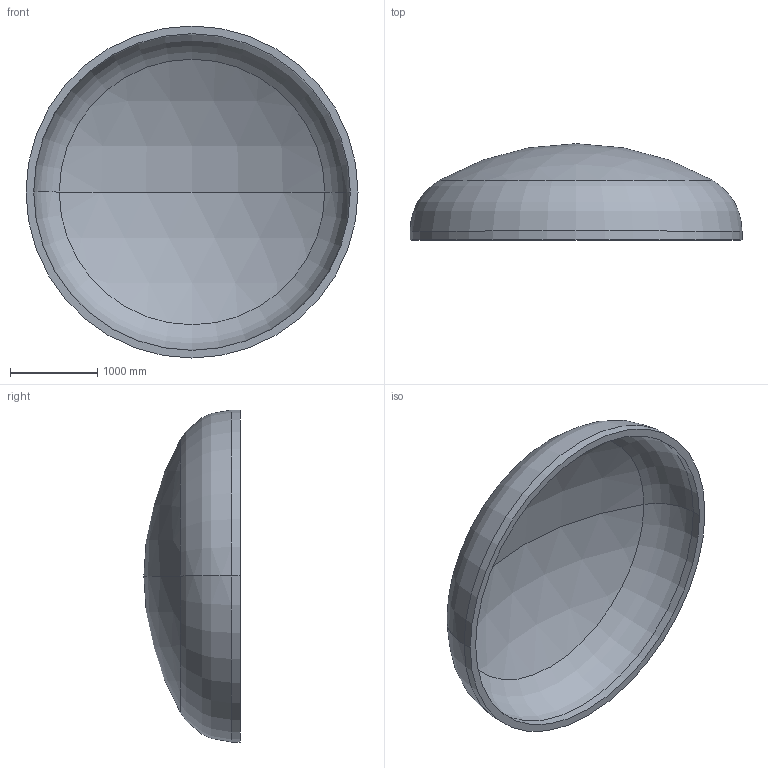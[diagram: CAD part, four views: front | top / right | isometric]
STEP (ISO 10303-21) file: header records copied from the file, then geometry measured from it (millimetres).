
FILE_DESCRIPTION (( 'STEP AP203' ), '1' );
FILE_NAME ('DIN 28013 Korbbogenform_-_Boden DIN 28013 - 3800 x 100 - I - s=88.step', '2016-07-01T21:43:49', ( '' ), ( '' ), 'SwSTEP 2.0', 'SolidWorks 2013', '' );
FILE_SCHEMA (( 'CONFIG_CONTROL_DESIGN' ));
Length unit declared in the file: millimetre
Products named in the file (1): DIN 28013 Korbbogenform_-_Boden DIN 28013 - 3800 x 100 - I - s=88
Bounding box: 3800 x 1101.62 x 3800 mm (x, y, z)
Volume: 1443364423.9 mm3; surface area: 33846164.6 mm2
Topology: 1 solids, 1 shells, 13 faces, 24 edges, 14 vertices
Faces by surface type: torus 4, cylinder 4, sphere 4, plane 1
Entity records: 407 total; most frequent: DIRECTION 72, CARTESIAN_POINT 52, ORIENTED_EDGE 48, AXIS2_PLACEMENT_3D 34, EDGE_CURVE 24, CIRCLE 20, EDGE_LOOP 14, VERTEX_POINT 14
